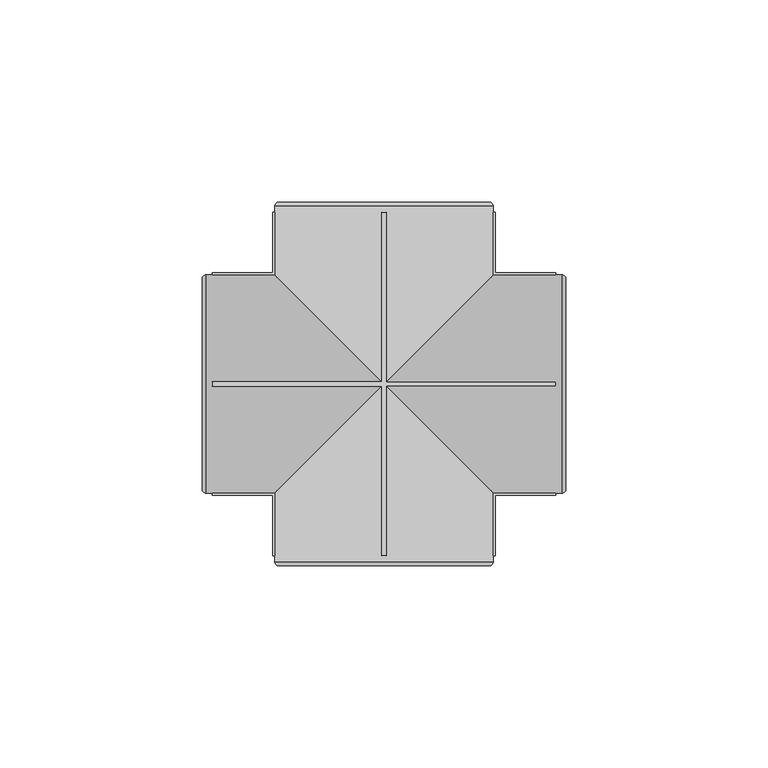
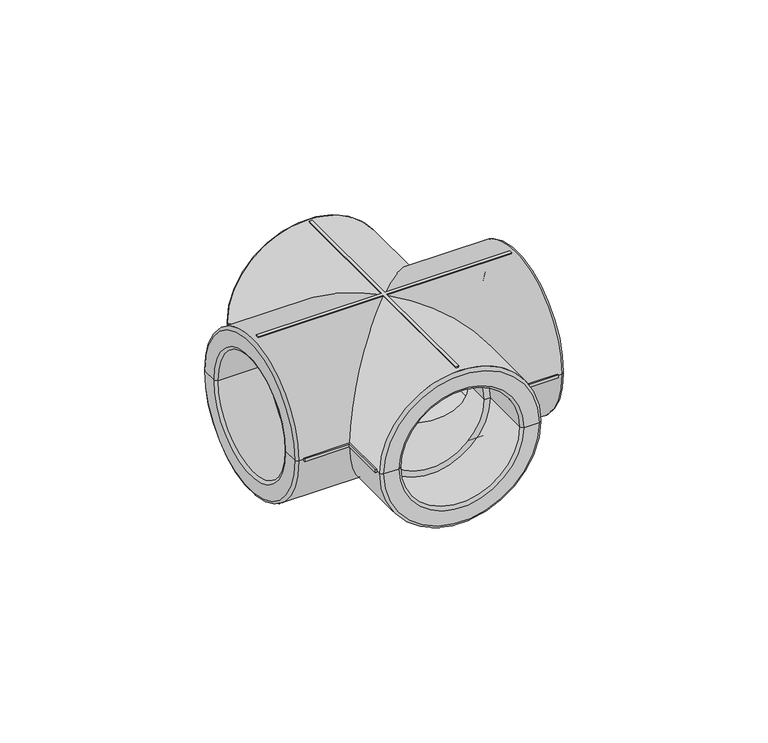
"""IFC4 building model written with IfcOpenShell, lengths in millimetres: pipe fitting geometry, EGB_VASEN_ PPR_Cruz WXR400 : EGB_VASEN_ PPR_Cruz WXR400."""

from ifc_helpers import new_model, si_unit, point, frame, origin, place, context, project, spatial, polyline, circle_curve, ellipse_curve, trimmed, source, transform, mapped, element, save
from ifc_brep_helpers import plane_surface, cylinder_surface, revolved_surface, advanced_brep


def pipe_fitting_b48d574c(model_context):
    return source(origin(), model_context, "Body", "AdvancedBrep", [
        advanced_brep(
        [(-27.5, -42.5, 0.5), (-27.5, -42.5, -0.5), (-26.99537, -42.5, -0.5), (-27.0, -42.5, 0.0), (-26.99537, -42.5, 0.5), (27.5, -42.5, -0.5), (27.5, -42.5, 0.5), (26.99537, -42.5, 0.5), (27.0, -42.5, 0.0), (26.99537, -42.5, -0.5), (27.5, 42.5, 0.5), (27.5, 42.5, -0.5), (26.99537, 42.5, -0.5), (27.0, 42.5, 0.0), (26.99537, 42.5, 0.5), (-27.5, 42.5, -0.5), (-27.5, 42.5, 0.5), (-26.99537, 42.5, 0.5), (-27.0, 42.5, 0.0), (-26.99537, 42.5, -0.5), (27.5, -27.5, -0.5), (27.5, -27.5, 0.5), (27.5, 27.5, 0.5), (27.5, 27.5, -0.5), (26.99537, -26.99537, -0.5), (42.5, -26.99537, -0.5), (42.5, -27.5, -0.5), (42.5, 27.5, -0.5), (42.5, 26.99537, -0.5), (26.99537, 26.99537, -0.5), (-27.5, -27.5, -0.5), (-42.5, -27.5, -0.5), (-42.5, -26.99537, -0.5), (-26.99537, -26.99537, -0.5), (-27.5, 27.5, -0.5), (-26.99537, 26.99537, -0.5), (-42.5, 26.99537, -0.5), (-42.5, 27.5, -0.5), (-27.5, -27.5, 0.5), (-27.5, 27.5, 0.5), (42.5, -27.5, 0.5), (42.5, -26.99537, 0.5), (26.99537, -26.99537, 0.5), (26.99537, 26.99537, 0.5), (42.5, 26.99537, 0.5), (42.5, 27.5, 0.5), (-26.99537, -26.99537, 0.5), (-42.5, -26.99537, 0.5), (-42.5, -27.5, 0.5), (-42.5, 27.5, 0.5), (-42.5, 26.99537, 0.5), (-26.99537, 26.99537, 0.5), (42.5, -27.0, 0.0), (42.5, 27.0, 0.0), (-42.5, 27.0, 0.0), (-42.5, -27.0, 0.0), (-25.9999999, 45.0, 0.0), (-21.0, 45.0, 0.0), (21.0, 45.0, 0.0), (26.0, 45.0, 0.0), (27.0, -44.0000008, 0.0), (-27.0, -44.0, 0.0), (-0.5, -0.5, -26.99537), (-0.5, -42.5, -26.99537), (0.5, -42.5, -26.99537), (0.5, -0.5, -26.99537), (-27.0, 44.0, 0.0), (27.0, 44.0, 0.0), (0.5, 0.5, -26.99537), (0.5, 42.5, -26.99537), (-0.5, 42.5, -26.99537), (-0.5, 0.5, -26.99537), (0.5, -0.5, 26.99537), (0.5, -42.5, 26.99537), (-0.5, -42.5, 26.99537), (-0.5, -0.5, 26.99537), (-0.5, 0.5, 26.99537), (-0.5, 42.5, 26.99537), (0.5, 42.5, 26.99537), (0.5, 0.5, 26.99537), (26.0, -45.0, 0.0), (21.0, -45.0, 0.0), (-21.0, -45.0, 0.0), (-26.0, -45.0, 0.0), (44.0, 27.0, 0.0), (44.0, -27.0, 0.0), (42.5, -0.5, -26.99537), (42.5, 0.5, -26.99537), (-42.5, 0.5, -26.99537), (-42.5, -0.5, -26.99537), (-44.0000008, -27.0, 0.0), (-44.0, 27.0, 0.0), (42.5, 0.5, 26.99537), (42.5, -0.5, 26.99537), (-42.5, -0.5, 26.99537), (-42.5, 0.5, 26.99537), (-45.0, -26.0, 0.0), (-45.0, -21.0, 0.0), (-45.0, 21.0, 0.0), (-45.0, 26.0, 0.0), (45.0, 25.9999999, 0.0), (45.0, 21.0, 0.0), (45.0, -21.0, 0.0), (45.0, -26.0, 0.0), (42.5, 0.5, 27.5), (42.5, -0.5, 27.5), (42.5, -0.5, -27.5), (42.5, 0.5, -27.5), (-42.5, 0.5, -27.5), (-42.5, -0.5, -27.5), (-42.5, -0.5, 27.5), (-42.5, 0.5, 27.5), (0.5, 0.5, 27.5), (0.5, 42.5, 27.5), (-0.5, 42.5, 27.5), (-0.5, 0.5, 27.5), (-0.5, -0.5, 27.5), (-0.5, -42.5, 27.5), (0.5, -42.5, 27.5), (0.5, -0.5, 27.5), (0.5, -0.5, -27.5), (-0.5, -0.5, -27.5), (0.5, -42.5, -27.5), (-0.5, -42.5, -27.5), (-0.5, 0.5, -27.5), (-0.5, 42.5, -27.5), (0.5, 42.5, -27.5), (0.5, 0.5, -27.5), (20.0, -27.0, 0.0), (18.0, -27.0, 0.0), (-18.0, -27.0, 0.0), (-20.0, -27.0, 0.0), (-20.0, -44.0, 0.0), (20.0, -44.0, 0.0), (20.0, 44.0, 0.0), (-20.0, 44.0, 0.0), (-20.0, 27.0, 0.0), (20.0, 27.0, 0.0), (-18.0, 27.0, 0.0), (18.0, 27.0, 0.0), (18.0, -18.0, 0.0), (0.0, 0.0, -18.0), (-18.0, -18.0, 0.0), (-18.0, 18.0, 0.0), (18.0, 18.0, 0.0), (0.0, 0.0, 18.0), (44.0, -20.0, 0.0), (44.0, 20.0, 0.0), (27.0, 20.0, 0.0), (27.0, -20.0, 0.0), (27.0, 18.0, 0.0), (27.0, -18.0, 0.0), (-27.0, 18.0, 0.0), (-27.0, -18.0, 0.0), (-27.0, 20.0, 0.0), (-27.0, -20.0, 0.0), (-44.0, 20.0, 0.0), (-44.0, -20.0, 0.0)],
        [
            (0, 1),
            (1, 2),
            (2, 3, circle_curve(frame((0.0, -42.5, 0.0), z_axis=(0.0, 1.0, 0.0), x_axis=(-1.0, 0.0, 0.0)), 27.0)),
            (3, 4, circle_curve(frame((0.0, -42.5, 0.0), z_axis=(0.0, 1.0, 0.0), x_axis=(-1.0, 0.0, 0.0)), 27.0)),
            (4, 0),
            (5, 6),
            (6, 7),
            (7, 8, circle_curve(frame((0.0, -42.5, 0.0), z_axis=(0.0, 1.0, 0.0), x_axis=(-1.0, 0.0, 0.0)), 27.0)),
            (8, 9, circle_curve(frame((0.0, -42.5, 0.0), z_axis=(0.0, 1.0, 0.0), x_axis=(-1.0, 0.0, 0.0)), 27.0)),
            (9, 5),
            (10, 11),
            (11, 12),
            (12, 13, circle_curve(frame((0.0, 42.5, 0.0), z_axis=(0.0, -1.0, 0.0), x_axis=(-1.0, 0.0, 0.0)), 27.0)),
            (13, 14, circle_curve(frame((0.0, 42.5, 0.0), z_axis=(0.0, -1.0, 0.0), x_axis=(-1.0, 0.0, 0.0)), 27.0)),
            (14, 10),
            (15, 16),
            (16, 17),
            (17, 18, circle_curve(frame((0.0, 42.5, 0.0), z_axis=(0.0, -1.0, 0.0), x_axis=(-1.0, 0.0, 0.0)), 27.0)),
            (18, 19, circle_curve(frame((0.0, 42.5, 0.0), z_axis=(0.0, -1.0, 0.0), x_axis=(-1.0, 0.0, 0.0)), 27.0)),
            (19, 15),
            (5, 20),
            (20, 21),
            (21, 6),
            (10, 22),
            (22, 23),
            (23, 11),
            (9, 24),
            (24, 25),
            (25, 26),
            (26, 20),
            (23, 27),
            (27, 28),
            (28, 29),
            (29, 12),
            (1, 30),
            (30, 31),
            (31, 32),
            (32, 33),
            (33, 2),
            (34, 15),
            (19, 35),
            (35, 36),
            (36, 37),
            (37, 34),
            (0, 38),
            (38, 30),
            (34, 39),
            (39, 16),
            (21, 40),
            (40, 41),
            (41, 42),
            (42, 7),
            (14, 43),
            (43, 44),
            (44, 45),
            (45, 22),
            (4, 46),
            (46, 47),
            (47, 48),
            (48, 38),
            (39, 49),
            (49, 50),
            (50, 51),
            (51, 17),
            (40, 26),
            (25, 52, circle_curve(frame((42.5, 0.0, 0.0), z_axis=(-1.0, 0.0, 0.0), x_axis=(0.0, 1.0, 0.0)), 27.0)),
            (52, 41, circle_curve(frame((42.5, 0.0, 0.0), z_axis=(-1.0, 0.0, 0.0), x_axis=(0.0, 1.0, 0.0)), 27.0)),
            (27, 45),
            (44, 53, circle_curve(frame((42.5, 0.0, 0.0), z_axis=(-1.0, 0.0, 0.0), x_axis=(0.0, 1.0, 0.0)), 27.0)),
            (53, 28, circle_curve(frame((42.5, 0.0, 0.0), z_axis=(-1.0, 0.0, 0.0), x_axis=(0.0, 1.0, 0.0)), 27.0)),
            (49, 37),
            (36, 54, circle_curve(frame((-42.5, 0.0, 0.0), z_axis=(1.0, 0.0, 0.0), x_axis=(0.0, 1.0, 0.0)), 27.0)),
            (54, 50, circle_curve(frame((-42.5, 0.0, 0.0), z_axis=(1.0, 0.0, 0.0), x_axis=(0.0, 1.0, 0.0)), 27.0)),
            (31, 48),
            (47, 55, circle_curve(frame((-42.5, 0.0, 0.0), z_axis=(1.0, 0.0, 0.0), x_axis=(0.0, 1.0, 0.0)), 27.0)),
            (55, 32, circle_curve(frame((-42.5, 0.0, 0.0), z_axis=(1.0, 0.0, 0.0), x_axis=(0.0, 1.0, 0.0)), 27.0)),
            (56, 57),
            (57, 58, circle_curve(frame((0.0, 45.0, 0.0), z_axis=(0.0, -1.0, 0.0), x_axis=(-1.0, 0.0, 0.0)), 21.0)),
            (58, 59),
            (59, 56, circle_curve(frame((0.0, 45.0, 0.0), z_axis=(0.0, 1.0, 0.0), x_axis=(-1.0, 0.0, 0.0)), 26.0)),
            (56, 59, circle_curve(frame((0.0, 45.0, 0.0), z_axis=(0.0, 1.0, 0.0), x_axis=(-1.0, 0.0, 0.0)), 26.0)),
            (58, 57, circle_curve(frame((0.0, 45.0, 0.0), z_axis=(0.0, -1.0, 0.0), x_axis=(-1.0, 0.0, 0.0)), 21.0)),
            (8, 60),
            (60, 61, circle_curve(frame((0.0, -44.0, 0.0), z_axis=(0.0, 1.0, 0.0), x_axis=(-1.0, 0.0, 0.0)), 27.0)),
            (61, 3),
            (33, 62, ellipse_curve(frame((0.0, 0.0, 0.0), z_axis=(0.7071067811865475, -0.7071067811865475, 0.0), x_axis=(-0.7071067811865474, -0.7071067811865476, 0.0)), 38.1837662, 27.0)),
            (62, 63),
            (63, 64, circle_curve(frame((0.0, -42.5, 0.0), z_axis=(0.0, -1.0, 0.0), x_axis=(-1.0, 0.0, 0.0)), 27.0)),
            (64, 65),
            (65, 24, ellipse_curve(frame((0.0, 0.0, 0.0), z_axis=(-0.7071067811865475, -0.7071067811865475, 0.0), x_axis=(0.7071067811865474, -0.7071067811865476, 0.0)), 38.1837662, 27.0)),
            (18, 66),
            (66, 67, circle_curve(frame((0.0, 44.0, 0.0), z_axis=(0.0, -1.0, 0.0), x_axis=(-1.0, 0.0, 0.0)), 27.0)),
            (67, 13),
            (29, 68, ellipse_curve(frame((0.0, 0.0, 0.0), z_axis=(-0.7071067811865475, 0.7071067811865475, 0.0), x_axis=(-0.7071067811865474, -0.7071067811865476, 0.0)), 38.1837662, 27.0)),
            (68, 69),
            (69, 70, circle_curve(frame((0.0, 42.5, 0.0), z_axis=(0.0, 1.0, 0.0), x_axis=(-1.0, 0.0, 0.0)), 27.0)),
            (70, 71),
            (71, 35, ellipse_curve(frame((0.0, 0.0, 0.0), z_axis=(0.7071067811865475, 0.7071067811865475, 0.0), x_axis=(0.7071067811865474, -0.7071067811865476, 0.0)), 38.1837662, 27.0)),
            (61, 60, circle_curve(frame((0.0, -44.0, 0.0), z_axis=(0.0, 1.0, 0.0), x_axis=(-1.0, 0.0, 0.0)), 27.0)),
            (42, 72, ellipse_curve(frame((0.0, 0.0, 0.0), z_axis=(-0.7071067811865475, -0.7071067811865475, 0.0), x_axis=(0.7071067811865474, -0.7071067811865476, 0.0)), 38.1837662, 27.0)),
            (72, 73),
            (73, 74, circle_curve(frame((0.0, -42.5, 0.0), z_axis=(0.0, -1.0, 0.0), x_axis=(-1.0, 0.0, 0.0)), 27.0)),
            (74, 75),
            (75, 46, ellipse_curve(frame((0.0, 0.0, 0.0), z_axis=(0.7071067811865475, -0.7071067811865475, 0.0), x_axis=(-0.7071067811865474, -0.7071067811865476, 0.0)), 38.1837662, 27.0)),
            (67, 66, circle_curve(frame((0.0, 44.0, 0.0), z_axis=(0.0, -1.0, 0.0), x_axis=(-1.0, 0.0, 0.0)), 27.0)),
            (51, 76, ellipse_curve(frame((0.0, 0.0, 0.0), z_axis=(0.7071067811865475, 0.7071067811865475, 0.0), x_axis=(0.7071067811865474, -0.7071067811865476, 0.0)), 38.1837662, 27.0)),
            (76, 77),
            (77, 78, circle_curve(frame((0.0, 42.5, 0.0), z_axis=(0.0, 1.0, 0.0), x_axis=(-1.0, 0.0, 0.0)), 27.0)),
            (78, 79),
            (79, 43, ellipse_curve(frame((0.0, 0.0, 0.0), z_axis=(-0.7071067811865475, 0.7071067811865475, 0.0), x_axis=(-0.7071067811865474, -0.7071067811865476, 0.0)), 38.1837662, 27.0)),
            (80, 81),
            (81, 82, circle_curve(frame((0.0, -45.0, 0.0), z_axis=(0.0, 1.0, 0.0), x_axis=(-1.0, 0.0, 0.0)), 21.0)),
            (82, 83),
            (83, 80, circle_curve(frame((0.0, -45.0, 0.0), z_axis=(0.0, -1.0, 0.0), x_axis=(-1.0, 0.0, 0.0)), 26.0)),
            (80, 83, circle_curve(frame((0.0, -45.0, 0.0), z_axis=(0.0, -1.0, 0.0), x_axis=(-1.0, 0.0, 0.0)), 26.0)),
            (82, 81, circle_curve(frame((0.0, -45.0, 0.0), z_axis=(0.0, 1.0, 0.0), x_axis=(-1.0, 0.0, 0.0)), 21.0)),
            (53, 84),
            (84, 85, circle_curve(frame((44.0, 0.0, 0.0), z_axis=(-1.0, 0.0, 0.0), x_axis=(0.0, 1.0, 0.0)), 27.0)),
            (85, 52),
            (65, 86),
            (86, 87, circle_curve(frame((42.5, 0.0, 0.0), z_axis=(1.0, 0.0, 0.0), x_axis=(0.0, 1.0, 0.0)), 27.0)),
            (87, 68),
            (71, 88),
            (88, 89, circle_curve(frame((-42.5, 0.0, 0.0), z_axis=(-1.0, 0.0, 0.0), x_axis=(0.0, 1.0, 0.0)), 27.0)),
            (89, 62),
            (55, 90),
            (90, 91, circle_curve(frame((-44.0, 0.0, 0.0), z_axis=(1.0, 0.0, 0.0), x_axis=(0.0, 1.0, 0.0)), 27.0)),
            (91, 54),
            (79, 92),
            (92, 93, circle_curve(frame((42.5, 0.0, 0.0), z_axis=(1.0, 0.0, 0.0), x_axis=(0.0, 1.0, 0.0)), 27.0)),
            (93, 72),
            (85, 84, circle_curve(frame((44.0, 0.0, 0.0), z_axis=(-1.0, 0.0, 0.0), x_axis=(0.0, 1.0, 0.0)), 27.0)),
            (91, 90, circle_curve(frame((-44.0, 0.0, 0.0), z_axis=(1.0, 0.0, 0.0), x_axis=(0.0, 1.0, 0.0)), 27.0)),
            (75, 94),
            (94, 95, circle_curve(frame((-42.5, 0.0, 0.0), z_axis=(-1.0, 0.0, 0.0), x_axis=(0.0, 1.0, 0.0)), 27.0)),
            (95, 76),
            (96, 97),
            (97, 98, circle_curve(frame((-45.0, 0.0, 0.0), z_axis=(1.0, 0.0, 0.0), x_axis=(0.0, 1.0, 0.0)), 21.0)),
            (98, 99),
            (99, 96, circle_curve(frame((-45.0, 0.0, 0.0), z_axis=(-1.0, 0.0, 0.0), x_axis=(0.0, 1.0, 0.0)), 26.0)),
            (96, 99, circle_curve(frame((-45.0, 0.0, 0.0), z_axis=(-1.0, 0.0, 0.0), x_axis=(0.0, 1.0, 0.0)), 26.0)),
            (98, 97, circle_curve(frame((-45.0, 0.0, 0.0), z_axis=(1.0, 0.0, 0.0), x_axis=(0.0, 1.0, 0.0)), 21.0)),
            (100, 101),
            (101, 102, circle_curve(frame((45.0, 0.0, 0.0), z_axis=(-1.0, 0.0, 0.0), x_axis=(0.0, 1.0, 0.0)), 21.0)),
            (102, 103),
            (103, 100, circle_curve(frame((45.0, 0.0, 0.0), z_axis=(1.0, 0.0, 0.0), x_axis=(0.0, 1.0, 0.0)), 26.0)),
            (100, 103, circle_curve(frame((45.0, 0.0, 0.0), z_axis=(1.0, 0.0, 0.0), x_axis=(0.0, 1.0, 0.0)), 26.0)),
            (102, 101, circle_curve(frame((45.0, 0.0, 0.0), z_axis=(-1.0, 0.0, 0.0), x_axis=(0.0, 1.0, 0.0)), 21.0)),
            (104, 105),
            (105, 93),
            (92, 104),
            (106, 107),
            (107, 87),
            (86, 106),
            (108, 109),
            (109, 89),
            (88, 108),
            (110, 111),
            (111, 95),
            (94, 110),
            (104, 112),
            (112, 113),
            (113, 114),
            (114, 115),
            (115, 111),
            (110, 116),
            (116, 117),
            (117, 118),
            (118, 119),
            (119, 105),
            (119, 72),
            (65, 120),
            (120, 106),
            (109, 121),
            (121, 62),
            (75, 116),
            (120, 122),
            (122, 123),
            (123, 121),
            (108, 124),
            (124, 125),
            (125, 126),
            (126, 127),
            (127, 107),
            (79, 112),
            (127, 68),
            (71, 124),
            (115, 76),
            (117, 74),
            (73, 118),
            (122, 64),
            (63, 123),
            (113, 78),
            (77, 114),
            (125, 70),
            (69, 126),
            (128, 129),
            (129, 130, circle_curve(frame((0.0, -27.0, 0.0), z_axis=(0.0, 1.0, 0.0), x_axis=(-1.0, 0.0, 0.0)), 18.0)),
            (130, 131),
            (131, 128, circle_curve(frame((0.0, -27.0, 0.0), z_axis=(0.0, -1.0, 0.0), x_axis=(-1.0, 0.0, 0.0)), 20.0)),
            (128, 131, circle_curve(frame((0.0, -27.0, 0.0), z_axis=(0.0, -1.0, 0.0), x_axis=(-1.0, 0.0, 0.0)), 20.0)),
            (130, 129, circle_curve(frame((0.0, -27.0, 0.0), z_axis=(0.0, 1.0, 0.0), x_axis=(-1.0, 0.0, 0.0)), 18.0)),
            (131, 132),
            (132, 133, circle_curve(frame((0.0, -44.0, 0.0), z_axis=(0.0, -1.0, 0.0), x_axis=(-1.0, 0.0, 0.0)), 20.0)),
            (133, 128),
            (133, 132, circle_curve(frame((0.0, -44.0, 0.0), z_axis=(0.0, -1.0, 0.0), x_axis=(-1.0, 0.0, 0.0)), 20.0)),
            (132, 82, circle_curve(frame((-21.0, -44.0, 0.0), z_axis=(0.0, 0.0, -1.0), x_axis=(1.0, 0.0, 0.0)), 1.0)),
            (81, 133, circle_curve(frame((21.0, -44.0, 0.0), z_axis=(0.0, 0.0, -1.0), x_axis=(-1.0, 0.0, 0.0)), 1.0)),
            (134, 58, circle_curve(frame((21.0, 44.0, 0.0), z_axis=(0.0, 0.0, -1.0), x_axis=(-1.0, 0.0, 0.0)), 1.0)),
            (57, 135, circle_curve(frame((-21.0, 44.0, 0.0), z_axis=(0.0, 0.0, -1.0), x_axis=(1.0, 0.0, 0.0)), 1.0)),
            (135, 134, circle_curve(frame((0.0, 44.0, 0.0), z_axis=(0.0, -1.0, 0.0), x_axis=(-1.0, 0.0, 0.0)), 20.0)),
            (134, 135, circle_curve(frame((0.0, 44.0, 0.0), z_axis=(0.0, -1.0, 0.0), x_axis=(-1.0, 0.0, 0.0)), 20.0)),
            (135, 136),
            (136, 137, circle_curve(frame((0.0, 27.0, 0.0), z_axis=(0.0, -1.0, 0.0), x_axis=(-1.0, 0.0, 0.0)), 20.0)),
            (137, 134),
            (137, 136, circle_curve(frame((0.0, 27.0, 0.0), z_axis=(0.0, -1.0, 0.0), x_axis=(-1.0, 0.0, 0.0)), 20.0)),
            (136, 138),
            (138, 139, circle_curve(frame((0.0, 27.0, 0.0), z_axis=(0.0, -1.0, 0.0), x_axis=(-1.0, 0.0, 0.0)), 18.0)),
            (139, 137),
            (139, 138, circle_curve(frame((0.0, 27.0, 0.0), z_axis=(0.0, -1.0, 0.0), x_axis=(-1.0, 0.0, 0.0)), 18.0)),
            (129, 140),
            (140, 141, ellipse_curve(frame((0.0, 0.0, 0.0), z_axis=(0.7071067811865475, 0.7071067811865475, 0.0), x_axis=(0.7071067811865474, -0.7071067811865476, 0.0)), 25.4558441, 18.0)),
            (141, 142, ellipse_curve(frame((0.0, 0.0, 0.0), z_axis=(-0.7071067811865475, 0.7071067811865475, 0.0), x_axis=(-0.7071067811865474, -0.7071067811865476, 0.0)), 25.4558441, 18.0)),
            (142, 130),
            (138, 143),
            (143, 141, ellipse_curve(frame((0.0, 0.0, 0.0), z_axis=(-0.7071067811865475, -0.7071067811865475, 0.0), x_axis=(0.7071067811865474, -0.7071067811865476, 0.0)), 25.4558441, 18.0)),
            (141, 144, ellipse_curve(frame((0.0, 0.0, 0.0), z_axis=(0.7071067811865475, -0.7071067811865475, 0.0), x_axis=(-0.7071067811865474, -0.7071067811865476, 0.0)), 25.4558441, 18.0)),
            (144, 139),
            (142, 145, ellipse_curve(frame((0.0, 0.0, 0.0), z_axis=(-0.7071067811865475, 0.7071067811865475, 0.0), x_axis=(-0.7071067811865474, -0.7071067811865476, 0.0)), 25.4558441, 18.0)),
            (145, 140, ellipse_curve(frame((0.0, 0.0, 0.0), z_axis=(0.7071067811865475, 0.7071067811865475, 0.0), x_axis=(0.7071067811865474, -0.7071067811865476, 0.0)), 25.4558441, 18.0)),
            (144, 145, ellipse_curve(frame((0.0, 0.0, 0.0), z_axis=(0.7071067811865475, -0.7071067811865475, 0.0), x_axis=(-0.7071067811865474, -0.7071067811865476, 0.0)), 25.4558441, 18.0)),
            (145, 143, ellipse_curve(frame((0.0, 0.0, 0.0), z_axis=(-0.7071067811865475, -0.7071067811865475, 0.0), x_axis=(0.7071067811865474, -0.7071067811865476, 0.0)), 25.4558441, 18.0)),
            (59, 67, circle_curve(frame((26.0, 44.0, 0.0), z_axis=(0.0, 0.0, -1.0), x_axis=(-1.0, 0.0, 0.0)), 1.0)),
            (66, 56, circle_curve(frame((-26.0, 44.0, 0.0), z_axis=(0.0, 0.0, -1.0), x_axis=(1.0, 0.0, 0.0)), 1.0)),
            (60, 80, circle_curve(frame((26.0, -44.0, 0.0), z_axis=(0.0, 0.0, -1.0), x_axis=(-1.0, 0.0, 0.0)), 1.0)),
            (83, 61, circle_curve(frame((-26.0, -44.0, 0.0), z_axis=(0.0, 0.0, -1.0), x_axis=(1.0, 0.0, 0.0)), 1.0)),
            (103, 85, circle_curve(frame((44.0, -26.0, 0.0), z_axis=(0.0, 0.0, -1.0), x_axis=(1.0, 0.0, 0.0)), 1.0)),
            (84, 100, circle_curve(frame((44.0, 26.0, 0.0), z_axis=(0.0, 0.0, -1.0), x_axis=(1.0, 0.0, 0.0)), 1.0)),
            (146, 102, circle_curve(frame((44.0, -21.0, 0.0), z_axis=(0.0, 0.0, -1.0), x_axis=(1.0, 0.0, 0.0)), 1.0)),
            (101, 147, circle_curve(frame((44.0, 21.0, 0.0), z_axis=(0.0, 0.0, -1.0), x_axis=(1.0, 0.0, 0.0)), 1.0)),
            (147, 146, circle_curve(frame((44.0, 0.0, 0.0), z_axis=(-1.0, 0.0, 0.0), x_axis=(0.0, 1.0, 0.0)), 20.0)),
            (146, 147, circle_curve(frame((44.0, 0.0, 0.0), z_axis=(-1.0, 0.0, 0.0), x_axis=(0.0, 1.0, 0.0)), 20.0)),
            (147, 148),
            (148, 149, circle_curve(frame((27.0, 0.0, 0.0), z_axis=(-1.0, 0.0, 0.0), x_axis=(0.0, 1.0, 0.0)), 20.0)),
            (149, 146),
            (149, 148, circle_curve(frame((27.0, 0.0, 0.0), z_axis=(-1.0, 0.0, 0.0), x_axis=(0.0, 1.0, 0.0)), 20.0)),
            (148, 150),
            (150, 151, circle_curve(frame((27.0, 0.0, 0.0), z_axis=(-1.0, 0.0, 0.0), x_axis=(0.0, 1.0, 0.0)), 18.0)),
            (151, 149),
            (151, 150, circle_curve(frame((27.0, 0.0, 0.0), z_axis=(-1.0, 0.0, 0.0), x_axis=(0.0, 1.0, 0.0)), 18.0)),
            (150, 144),
            (140, 151),
            (152, 153, circle_curve(frame((-27.0, 0.0, 0.0), z_axis=(-1.0, 0.0, 0.0), x_axis=(0.0, 1.0, 0.0)), 18.0)),
            (153, 142),
            (143, 152),
            (153, 152, circle_curve(frame((-27.0, 0.0, 0.0), z_axis=(-1.0, 0.0, 0.0), x_axis=(0.0, 1.0, 0.0)), 18.0)),
            (152, 154),
            (154, 155, circle_curve(frame((-27.0, 0.0, 0.0), z_axis=(-1.0, 0.0, 0.0), x_axis=(0.0, 1.0, 0.0)), 20.0)),
            (155, 153),
            (155, 154, circle_curve(frame((-27.0, 0.0, 0.0), z_axis=(-1.0, 0.0, 0.0), x_axis=(0.0, 1.0, 0.0)), 20.0)),
            (154, 156),
            (156, 157, circle_curve(frame((-44.0, 0.0, 0.0), z_axis=(-1.0, 0.0, 0.0), x_axis=(0.0, 1.0, 0.0)), 20.0)),
            (157, 155),
            (157, 156, circle_curve(frame((-44.0, 0.0, 0.0), z_axis=(-1.0, 0.0, 0.0), x_axis=(0.0, 1.0, 0.0)), 20.0)),
            (156, 98, circle_curve(frame((-44.0, 21.0, 0.0), z_axis=(0.0, 0.0, -1.0), x_axis=(1.0, 0.0, 0.0)), 1.0)),
            (97, 157, circle_curve(frame((-44.0, -21.0, 0.0), z_axis=(0.0, 0.0, -1.0), x_axis=(1.0, 0.0, 0.0)), 1.0)),
            (90, 96, circle_curve(frame((-44.0, -26.0, 0.0), z_axis=(0.0, 0.0, -1.0), x_axis=(1.0, 0.0, 0.0)), 1.0)),
            (99, 91, circle_curve(frame((-44.0, 26.0, 0.0), z_axis=(0.0, 0.0, -1.0), x_axis=(1.0, 0.0, 0.0)), 1.0)),
        ],
        [
            plane_surface(frame((27.5, -42.5, 0.5), z_axis=(0.0, -1.0, 0.0), x_axis=(0.0, 0.0, 1.0))),
            plane_surface(frame((27.5, 42.5, 0.5), z_axis=(0.0, 1.0, 0.0), x_axis=(0.0, 0.0, -1.0))),
            plane_surface(frame((27.5, 42.5, 0.5), z_axis=(1.0, 0.0, 0.0), x_axis=(0.0, -1.0, 0.0))),
            plane_surface(frame((27.5, 42.5, -0.5), z_axis=(0.0, 0.0, -1.0), x_axis=(0.0, -1.0, 0.0))),
            plane_surface(frame((-27.5, 42.5, -0.5), z_axis=(-1.0, 0.0, 0.0), x_axis=(0.0, -1.0, 0.0))),
            plane_surface(frame((-27.5, 42.5, 0.5), z_axis=(0.0, 0.0, 1.0), x_axis=(0.0, -1.0, 0.0))),
            plane_surface(frame((42.5, -27.5, 0.5), z_axis=(1.0, 0.0, 0.0), x_axis=(0.0, -1.0, 0.0))),
            plane_surface(frame((-42.5, -27.5, 0.5), z_axis=(-1.0, 0.0, 0.0), x_axis=(0.0, 1.0, 0.0))),
            plane_surface(frame((42.5, -27.5, 0.5), z_axis=(0.0, -1.0, 0.0), x_axis=(-1.0, 0.0, 0.0))),
            plane_surface(frame((42.5, 27.5, -0.5), z_axis=(0.0, 1.0, 0.0), x_axis=(-1.0, 0.0, 0.0))),
            plane_surface(frame((0.0, 45.0, 0.0), z_axis=(0.0, 1.0, 0.0), x_axis=(-1.0, 0.0, 0.0))),
            cylinder_surface(frame((0.0, 2018.0, 0.0), z_axis=(0.0, -1.0, 0.0), x_axis=(-1.0, 0.0, 0.0)), 27.0),
            plane_surface(frame((0.0, -45.0, 0.0), z_axis=(0.0, -1.0, 0.0), x_axis=(-1.0, 0.0, 0.0))),
            cylinder_surface(frame((2018.0, 0.0, 0.0), z_axis=(-1.0, 0.0, 0.0), x_axis=(0.0, 1.0, 0.0)), 27.0),
            plane_surface(frame((-45.0, 0.0, 0.0), z_axis=(-1.0, 0.0, 0.0), x_axis=(0.0, 1.0, 0.0))),
            plane_surface(frame((45.0, 0.0, 0.0), z_axis=(1.0, 0.0, 0.0), x_axis=(0.0, 1.0, 0.0))),
            plane_surface(frame((42.5, -0.5, 27.5), z_axis=(1.0, 0.0, 0.0), x_axis=(0.0, -1.0, 0.0))),
            plane_surface(frame((-42.5, -0.5, 27.5), z_axis=(-1.0, 0.0, 0.0), x_axis=(0.0, 1.0, 0.0))),
            plane_surface(frame((42.5, 0.5, 27.5), z_axis=(0.0, 0.0, 1.0), x_axis=(-1.0, 0.0, 0.0))),
            plane_surface(frame((42.5, -0.5, 27.5), z_axis=(0.0, -1.0, 0.0), x_axis=(-1.0, 0.0, 0.0))),
            plane_surface(frame((42.5, -0.5, -27.5), z_axis=(0.0, 0.0, -1.0), x_axis=(-1.0, 0.0, 0.0))),
            plane_surface(frame((42.5, 0.5, -27.5), z_axis=(0.0, 1.0, 0.0), x_axis=(-1.0, 0.0, 0.0))),
            plane_surface(frame((0.5, -42.5, 27.5), z_axis=(0.0, -1.0, 0.0), x_axis=(0.0, 0.0, 1.0))),
            plane_surface(frame((0.5, 42.5, 27.5), z_axis=(0.0, 1.0, 0.0), x_axis=(0.0, 0.0, -1.0))),
            plane_surface(frame((0.5, 42.5, 27.5), z_axis=(1.0, 0.0, 0.0), x_axis=(0.0, -1.0, 0.0))),
            plane_surface(frame((-0.5, 42.5, -27.5), z_axis=(-1.0, 0.0, 0.0), x_axis=(0.0, -1.0, 0.0))),
            plane_surface(frame((0.0, -27.0, 0.0), z_axis=(0.0, -1.0, 0.0), x_axis=(-1.0, 0.0, 0.0))),
            revolved_surface(polyline([(-20.0, -44.0, 0.0), (-20.0, -27.0, 0.0)]), (0.0, 2018.0, 0.0), (0.0, -1.0, 0.0)),
            revolved_surface(trimmed(ellipse_curve(frame((-21.0, -44.0, 0.0), z_axis=(0.0, 0.0, 1.0), x_axis=(1.0, 0.0, 0.0)), 1.0, 1.0), [point((-21.0, -45.0, 0.0))], [point((-20.0, -44.0, 0.0))], True, "CARTESIAN"), (0.0, 2018.0, 0.0), (0.0, -1.0, 0.0)),
            revolved_surface(trimmed(ellipse_curve(frame((-21.0, 44.0, 0.0), z_axis=(0.0, 0.0, 1.0), x_axis=(1.0, 0.0, 0.0)), 1.0, 1.0), [point((-20.0, 44.0, 0.0))], [point((-21.0, 45.0, 0.0))], True, "CARTESIAN"), (0.0, 2018.0, 0.0), (0.0, -1.0, 0.0)),
            revolved_surface(polyline([(-20.0, 27.0, 0.0), (-20.0, 44.0, 0.0)]), (0.0, 2018.0, 0.0), (0.0, -1.0, 0.0)),
            plane_surface(frame((0.0, 27.0, 0.0), z_axis=(0.0, 1.0, 0.0), x_axis=(-1.0, 0.0, 0.0))),
            revolved_surface(polyline([(-18.0, -27.0, 0.0), (-18.0, 17.99999998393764, 0.0)]), (0.0, 2018.0, 0.0), (0.0, -1.0, 0.0)),
            revolved_surface(polyline([(-18.0, -17.99999998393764, 0.0), (-18.0, 27.0, 0.0)]), (0.0, 2018.0, 0.0), (0.0, -1.0, 0.0)),
            revolved_surface(trimmed(ellipse_curve(frame((-26.0, 44.0, 0.0), z_axis=(0.0, 0.0, 1.0), x_axis=(1.0, 0.0, 0.0)), 1.0, 1.0), [point((-26.0, 45.0, 0.0))], [point((-27.0, 44.0, 0.0))], True, "CARTESIAN"), (0.0, 2018.0, 0.0), (0.0, -1.0, 0.0)),
            revolved_surface(trimmed(ellipse_curve(frame((-26.0, -44.0, 0.0), z_axis=(0.0, 0.0, 1.0), x_axis=(1.0, 0.0, 0.0)), 1.0, 1.0), [point((-27.0, -44.0, 0.0))], [point((-26.0, -45.0, 0.0))], True, "CARTESIAN"), (0.0, 2018.0, 0.0), (0.0, -1.0, 0.0)),
            revolved_surface(trimmed(ellipse_curve(frame((44.0, 26.0, 0.0), z_axis=(0.0, 0.0, 1.0), x_axis=(1.0, 0.0, 0.0)), 1.0, 1.0), [point((45.0, 26.0, 0.0))], [point((44.0, 27.0, 0.0))], True, "CARTESIAN"), (2018.0, 0.0, 0.0), (-1.0, 0.0, 0.0)),
            revolved_surface(trimmed(ellipse_curve(frame((44.0, 21.0, 0.0), z_axis=(0.0, 0.0, 1.0), x_axis=(1.0, 0.0, 0.0)), 1.0, 1.0), [point((44.0, 20.0, 0.0))], [point((45.0, 21.0, 0.0))], True, "CARTESIAN"), (2018.0, 0.0, 0.0), (-1.0, 0.0, 0.0)),
            revolved_surface(polyline([(27.0, 20.0, 0.0), (44.0, 20.0, 0.0)]), (2018.0, 0.0, 0.0), (-1.0, 0.0, 0.0)),
            plane_surface(frame((27.0, 0.0, 0.0), z_axis=(1.0, 0.0, 0.0), x_axis=(0.0, 1.0, 0.0))),
            revolved_surface(polyline([(-17.99999998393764, 18.0, 0.0), (27.0, 18.0, 0.0)]), (2018.0, 0.0, 0.0), (-1.0, 0.0, 0.0)),
            revolved_surface(polyline([(-27.0, 18.0, 0.0), (17.99999998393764, 18.0, 0.0)]), (2018.0, 0.0, 0.0), (-1.0, 0.0, 0.0)),
            plane_surface(frame((-27.0, 0.0, 0.0), z_axis=(-1.0, 0.0, 0.0), x_axis=(0.0, 1.0, 0.0))),
            revolved_surface(polyline([(-44.0, 20.0, 0.0), (-27.0, 20.0, 0.0)]), (2018.0, 0.0, 0.0), (-1.0, 0.0, 0.0)),
            revolved_surface(trimmed(ellipse_curve(frame((-44.0, 21.0, 0.0), z_axis=(0.0, 0.0, 1.0), x_axis=(1.0, 0.0, 0.0)), 1.0, 1.0), [point((-45.0, 21.0, 0.0))], [point((-44.0, 20.0, 0.0))], True, "CARTESIAN"), (2018.0, 0.0, 0.0), (-1.0, 0.0, 0.0)),
            revolved_surface(trimmed(ellipse_curve(frame((-44.0, 26.0, 0.0), z_axis=(0.0, 0.0, 1.0), x_axis=(1.0, 0.0, 0.0)), 1.0, 1.0), [point((-44.0, 27.0, 0.0))], [point((-45.0, 26.0, 0.0))], True, "CARTESIAN"), (2018.0, 0.0, 0.0), (-1.0, 0.0, 0.0)),
        ],
        [
            (0, [[1, 2, 3, 4, 5]]),
            (0, [[6, 7, 8, 9, 10]]),
            (1, [[11, 12, 13, 14, 15]]),
            (1, [[16, 17, 18, 19, 20]]),
            (2, [[-6, 21, 22, 23]]),
            (2, [[-11, 24, 25, 26]]),
            (3, [[-21, -10, 27, 28, 29, 30]]),
            (3, [[-26, 31, 32, 33, 34, -12]]),
            (3, [[35, 36, 37, 38, 39, -2]]),
            (3, [[40, -20, 41, 42, 43, 44]]),
            (4, [[-1, 45, 46, -35]]),
            (4, [[-16, -40, 47, 48]]),
            (5, [[-23, 49, 50, 51, 52, -7]]),
            (5, [[-24, -15, 53, 54, 55, 56]]),
            (5, [[-45, -5, 57, 58, 59, 60]]),
            (5, [[-48, 61, 62, 63, 64, -17]]),
            (6, [[65, -29, 66, 67, -50]]),
            (6, [[68, -55, 69, 70, -32]]),
            (7, [[71, -43, 72, 73, -62]]),
            (7, [[74, -59, 75, 76, -37]]),
            (8, [[-65, -49, -22, -30]]),
            (8, [[-74, -36, -46, -60]]),
            (9, [[-68, -31, -25, -56]]),
            (9, [[-71, -61, -47, -44]]),
            (10, [[77, 78, 79, 80]]),
            (10, [[-77, 81, -79, 82]]),
            (11, [[-9, 83, 84, 85, -3, -39, 86, 87, 88, 89, 90, -27]]),
            (11, [[-19, 91, 92, 93, -13, -34, 94, 95, 96, 97, 98, -41]]),
            (11, [[-4, -85, 99, -83, -8, -52, 100, 101, 102, 103, 104, -57]]),
            (11, [[-14, -93, 105, -91, -18, -64, 106, 107, 108, 109, 110, -53]]),
            (12, [[111, 112, 113, 114]]),
            (12, [[-111, 115, -113, 116]]),
            (13, [[-33, -70, 117, 118, 119, -66, -28, -90, 120, 121, 122, -94]]),
            (13, [[-42, -98, 123, 124, 125, -86, -38, -76, 126, 127, 128, -72]]),
            (13, [[-54, -110, 129, 130, 131, -100, -51, -67, -119, 132, -117, -69]]),
            (13, [[-63, -73, -128, 133, -126, -75, -58, -104, 134, 135, 136, -106]]),
            (14, [[137, 138, 139, 140]]),
            (14, [[-137, 141, -139, 142]]),
            (15, [[143, 144, 145, 146]]),
            (15, [[-143, 147, -145, 148]]),
            (16, [[149, 150, -130, 151]]),
            (16, [[152, 153, -121, 154]]),
            (17, [[155, 156, -124, 157]]),
            (17, [[158, 159, -135, 160]]),
            (18, [[-149, 161, 162, 163, 164, 165, -158, 166, 167, 168, 169, 170]]),
            (19, [[-150, -170, 171, -131]]),
            (19, [[-154, -120, 172, 173]]),
            (19, [[-156, 174, 175, -125]]),
            (19, [[-160, -134, 176, -166]]),
            (20, [[-152, -173, 177, 178, 179, -174, -155, 180, 181, 182, 183, 184]]),
            (21, [[-151, -129, 185, -161]]),
            (21, [[-153, -184, 186, -122]]),
            (21, [[-157, -123, 187, -180]]),
            (21, [[-159, -165, 188, -136]]),
            (22, [[-168, 189, -102, 190]]),
            (22, [[-178, 191, -88, 192]]),
            (23, [[-163, 193, -108, 194]]),
            (23, [[-182, 195, -96, 196]]),
            (24, [[-162, -185, -109, -193]]),
            (24, [[-169, -190, -101, -171]]),
            (24, [[-177, -172, -89, -191]]),
            (24, [[-183, -196, -95, -186]]),
            (25, [[-164, -194, -107, -188]]),
            (25, [[-167, -176, -103, -189]]),
            (25, [[-179, -192, -87, -175]]),
            (25, [[-181, -187, -97, -195]]),
            (26, [[197, 198, 199, 200]]),
            (26, [[-197, 201, -199, 202]]),
            (27, [[-200, 203, 204, 205]]),
            (27, [[-201, -205, 206, -203]]),
            (28, [[-204, 207, -112, 208]]),
            (28, [[-206, -208, -116, -207]]),
            (29, [[209, -78, 210, 211]]),
            (29, [[-209, 212, -210, -82]]),
            (30, [[-211, 213, 214, 215]]),
            (30, [[-212, -215, 216, -213]]),
            (31, [[-214, 217, 218, 219]]),
            (31, [[-216, -219, 220, -217]]),
            (32, [[-198, 221, 222, 223, 224]]),
            (33, [[-218, 225, 226, 227, 228]]),
            (32, [[-202, -224, 229, 230, -221]]),
            (33, [[-220, -228, 231, 232, -225]]),
            (34, [[233, -92, 234, -80]]),
            (34, [[-233, -81, -234, -105]]),
            (35, [[235, -114, 236, -84]]),
            (35, [[-235, -99, -236, -115]]),
            (36, [[237, -118, 238, -146]]),
            (36, [[-237, -147, -238, -132]]),
            (37, [[239, -144, 240, 241]]),
            (37, [[-239, 242, -240, -148]]),
            (38, [[-241, 243, 244, 245]]),
            (38, [[-242, -245, 246, -243]]),
            (39, [[-244, 247, 248, 249]]),
            (39, [[-246, -249, 250, -247]]),
            (40, [[-248, 251, -227, -222, 252]]),
            (41, [[253, 254, -223, -226, 255]]),
            (40, [[-250, -252, -230, -231, -251]]),
            (41, [[256, -255, -232, -229, -254]]),
            (42, [[-253, 257, 258, 259]]),
            (42, [[-256, -259, 260, -257]]),
            (43, [[-258, 261, 262, 263]]),
            (43, [[-260, -263, 264, -261]]),
            (44, [[-262, 265, -138, 266]]),
            (44, [[-264, -266, -142, -265]]),
            (45, [[267, -140, 268, -127]]),
            (45, [[-267, -133, -268, -141]]),
        ],
    ),
    ])


if __name__ == "__main__":
    model = new_model("IFC4")
    model_context = context("Model", 3, world=origin())
    ifc_project = project(units=[si_unit("LENGTHUNIT", "METRE", prefix="MILLI")], contexts=[model_context])
    site = spatial("IfcSite", under=ifc_project)
    building = spatial("IfcBuilding", under=site)
    placement = place(None, origin())
    pipe_fitting_shape = pipe_fitting_b48d574c(model_context)
    element("IfcPipeFitting", 1, ObjectType="EGB_VASEN_ PPR_Cruz WXR400 : EGB_VASEN_ PPR_Cruz WXR400", at=placement, inside=building, context=model_context, shape_type="MappedRepresentation", body=[
        mapped(pipe_fitting_shape, transform((0.0, 0.0, 0.0), x_axis=(1.0, 0.0, 0.0), y_axis=(0.0, 1.0, 0.0), z_axis=(0.0, 0.0, 1.0))),
    ])
    save(model, "model.ifc")
